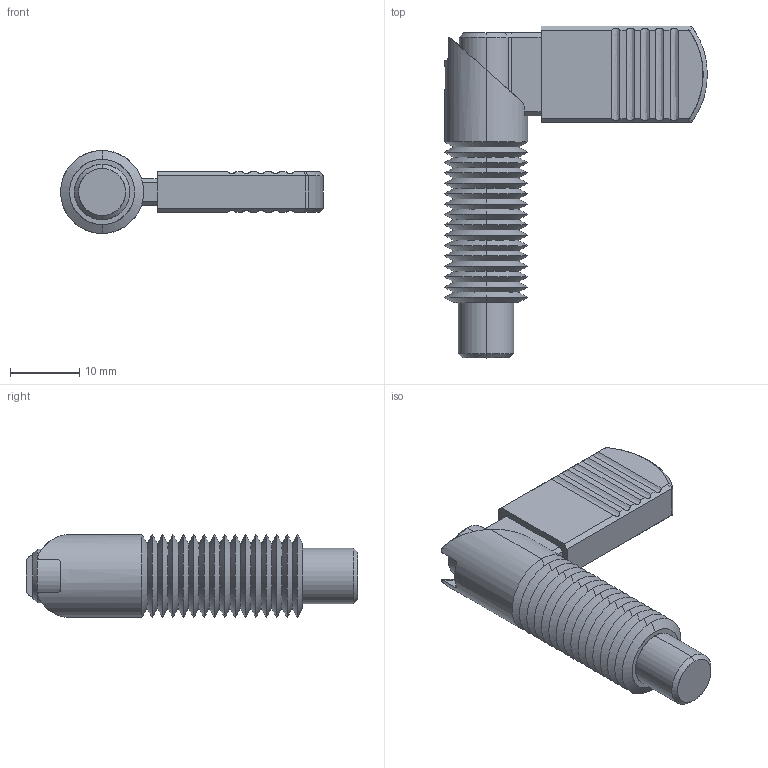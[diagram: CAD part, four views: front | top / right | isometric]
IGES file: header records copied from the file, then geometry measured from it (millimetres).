
Start section: SolidWorks IGES file using analytic representation for surfaces
Global section: file name: C:\Documents and Settings\IANO\My Documents\Wix and Auto CAD Work\CAD Models\Parametric Models\Wix Models\30000\32500_v2\32500_v2_20160309_IGES\32500.W0355.igs; native system: SolidWorks 2009; preprocessor: SolidWorks 2009; author: IANO; date: 160630.164429; units: millimetre
Bounding box: 38 x 48 x 12 mm (x, y, z)
Surface area: 6560.4 mm2 (no closed solid volume)
Topology: 0 solids, 0 shells, 192 faces, 1857 edges, 1857 vertices
Faces by surface type: revolution 134, bspline 58
